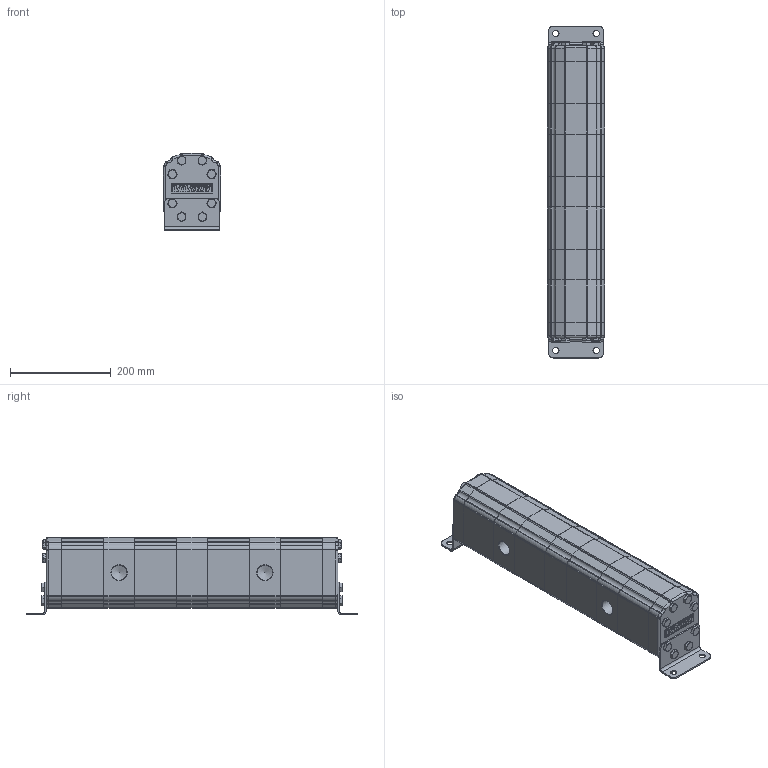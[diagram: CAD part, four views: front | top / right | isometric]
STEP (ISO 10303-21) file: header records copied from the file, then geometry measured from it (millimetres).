
FILE_DESCRIPTION(/* description */ ('Unknown'),/* implementation_level */ '2;1');
FILE_NAME(/* name */ '9D0478',/* time_stamp */ '2020-04-17T18:25:13+02:00',/* author */ ('Unknown'),/* organization */ ('Unknown'),/* preprocessor_version */ 'ST-DEVELOPER v16.7',/* originating_system */ 'DEX',/* authorisation */ $);
FILE_SCHEMA (('AUTOMOTIVE_DESIGN {1 0 10303 214 3 1 1}'));
Length unit declared in the file: millimetre
Products named in the file (1): XV-3D
Bounding box: 115 x 660 x 155 mm (x, y, z)
Volume: 8528327 mm3; surface area: 339902.8 mm2
Topology: 1 solids, 1 shells, 966 faces, 2597 edges, 1661 vertices
Faces by surface type: cylinder 428, plane 406, bspline 72, torus 32, cone 28
Full cylindrical faces by diameter (mm): 12.5 x4, 16 x16, 24.117 x8, 30.291 x4
Entity records: 40082 total; most frequent: CARTESIAN_POINT 9329, DIRECTION 5082, ORIENTED_EDGE 4960, EDGE_CURVE 2480, AXIS2_PLACEMENT_3D 1867, VERTEX_POINT 1642, LINE 1348, VECTOR 1348
